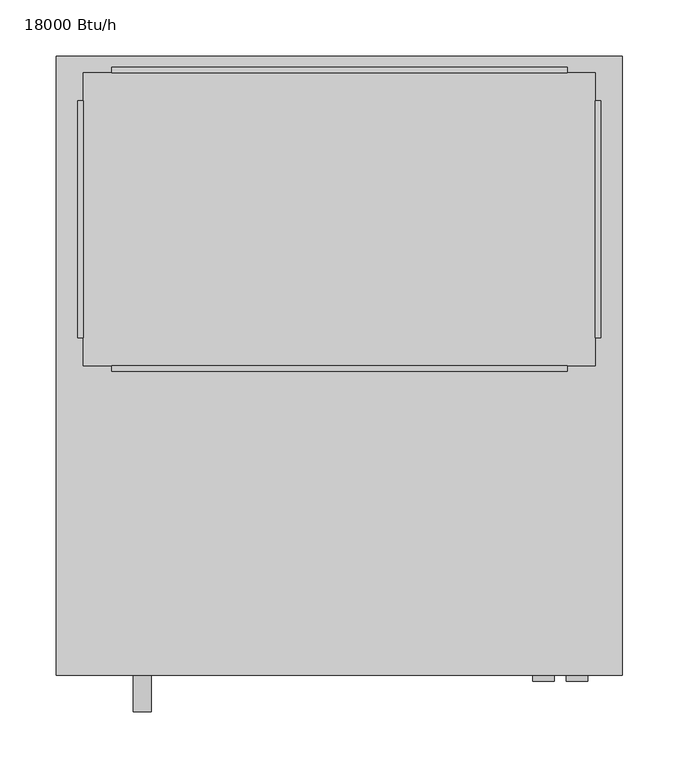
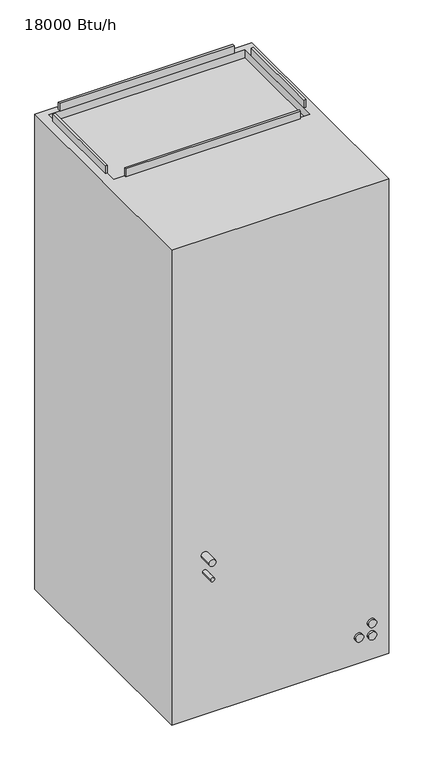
"""IFC4 building model written with IfcOpenShell, lengths in millimetres: proxy geometry, Lennox-VRF-Concealed_Vertical_Air_Handler-VVCA-2P_Series : 18000 Btu/h."""

from ifc_helpers import new_model, si_unit, point, frame, frame_2d, origin, place, context, project, spatial, polyline, circle_curve, trimmed, segment, composite_curve, outline, extrude, faceted_brep, source, transform, mapped, element, save


def proxy_18000_btu_h_9c45835d(model_context):
    return source(origin(), model_context, "Body", "SolidModel", [
        extrude(outline(composite_curve([segment(trimmed(circle_curve(frame_2d((60.0, 211.0)), 9.525), [point((60.0, 201.475))], [point((60.0, 220.525))], False, "CARTESIAN"), True, "CONTINUOUS"), segment(trimmed(circle_curve(frame_2d((60.0, 211.0)), 9.525), [point((60.0, 220.525))], [point((60.0, 201.475))], False, "CARTESIAN"), True, "CONTINUOUS")], self_intersect=False)), frame((0.0, -279.5, 0.0), z_axis=(0.0, 1.0, 0.0), x_axis=(0.0, 0.0, 1.0)), (0.0, 0.0, 1.0), 5.0),
        extrude(outline(composite_curve([segment(trimmed(circle_curve(frame_2d((65.0, 181.0)), 9.525), [point((65.0, 171.475))], [point((65.0, 190.525))], False, "CARTESIAN"), True, "CONTINUOUS"), segment(trimmed(circle_curve(frame_2d((65.0, 181.0)), 9.525), [point((65.0, 190.525))], [point((65.0, 171.475))], False, "CARTESIAN"), True, "CONTINUOUS")], self_intersect=False)), frame((0.0, -279.5, 0.0), z_axis=(0.0, 1.0, 0.0), x_axis=(0.0, 0.0, 1.0)), (0.0, 0.0, 1.0), 5.0),
        extrude(outline(composite_curve([segment(trimmed(circle_curve(frame_2d((90.0, 211.0)), 9.525), [point((90.0, 201.475))], [point((90.0, 220.525))], False, "CARTESIAN"), True, "CONTINUOUS"), segment(trimmed(circle_curve(frame_2d((90.0, 211.0)), 9.525), [point((90.0, 220.525))], [point((90.0, 201.475))], False, "CARTESIAN"), True, "CONTINUOUS")], self_intersect=False)), frame((0.0, -279.5, 0.0), z_axis=(0.0, 1.0, 0.0), x_axis=(0.0, 0.0, 1.0)), (0.0, 0.0, 1.0), 5.0),
        extrude(outline(composite_curve([segment(trimmed(circle_curve(frame_2d((349.0, -175.0)), 4.7625), [point((349.0, -179.7625))], [point((349.0, -170.2375))], False, "CARTESIAN"), True, "CONTINUOUS"), segment(trimmed(circle_curve(frame_2d((349.0, -175.0)), 4.7625), [point((349.0, -170.2375))], [point((349.0, -179.7625))], False, "CARTESIAN"), True, "CONTINUOUS")], self_intersect=False)), frame((0.0, -306.5, 0.0), z_axis=(0.0, 1.0, 0.0), x_axis=(0.0, 0.0, 1.0)), (0.0, 0.0, 1.0), 32.0),
        extrude(outline(composite_curve([segment(trimmed(circle_curve(frame_2d((390.0, -175.0)), 7.9375), [point((390.0, -182.9375))], [point((390.0, -167.0625))], False, "CARTESIAN"), True, "CONTINUOUS"), segment(trimmed(circle_curve(frame_2d((390.0, -175.0)), 7.9375), [point((390.0, -167.0625))], [point((390.0, -182.9375))], False, "CARTESIAN"), True, "CONTINUOUS")], self_intersect=False)), frame((0.0, -306.5, 0.0), z_axis=(0.0, 1.0, 0.0), x_axis=(0.0, 0.0, 1.0)), (0.0, 0.0, 1.0), 32.0),
        extrude(outline(polyline([(-232.0, 235.0), (-227.0, 235.0), (-227.0, 25.0), (-232.0, 25.0), (-232.0, 235.0)])), frame((0.0, 0.0, 1162.0), z_axis=(0.0, 0.0, 1.0), x_axis=(1.0, 0.0, 0.0)), (0.0, 0.0, 1.0), 19.0),
        extrude(outline(polyline([(227.0, 235.0), (232.0, 235.0), (232.0, 25.0), (227.0, 25.0), (227.0, 235.0)])), frame((0.0, 0.0, 1162.0), z_axis=(0.0, 0.0, 1.0), x_axis=(1.0, 0.0, 0.0)), (0.0, 0.0, 1.0), 19.0),
        extrude(outline(polyline([(202.0, 265.0), (202.0, 260.0), (-202.0, 260.0), (-202.0, 265.0), (202.0, 265.0)])), frame((0.0, 0.0, 1162.0), z_axis=(0.0, 0.0, 1.0), x_axis=(1.0, 0.0, 0.0)), (0.0, 0.0, 1.0), 19.0),
        extrude(outline(polyline([(202.0, 0.0), (202.0, -5.0), (-202.0, -5.0), (-202.0, 0.0), (202.0, 0.0)])), frame((0.0, 0.0, 1162.0), z_axis=(0.0, 0.0, 1.0), x_axis=(1.0, 0.0, 0.0)), (0.0, 0.0, 1.0), 19.0),
        faceted_brep([(251.0, 274.5, 1162.0), (-251.0, 274.5, 1162.0), (-251.0, -274.5, 1162.0), (251.0, -274.5, 1162.0), (-227.0, 260.0, 1162.0), (227.0, 260.0, 1162.0), (227.0, 0.0, 1162.0), (-227.0, 0.0, 1162.0), (251.0, 274.5, 0.0), (251.0, -274.5, 0.0), (-251.0, -274.5, 0.0), (-251.0, 274.5, 0.0), (227.0, 260.0, 1142.0), (-227.0, 260.0, 1142.0), (-227.0, 0.0, 1142.0), (227.0, 0.0, 1142.0)], [[[0, 1, 2, 3], [4, 5, 6, 7]], [[8, 9, 10, 11]], [[1, 0, 8, 11]], [[2, 1, 11, 10]], [[3, 2, 10, 9]], [[0, 3, 9, 8]], [[12, 13, 14, 15]], [[13, 12, 5, 4]], [[14, 13, 4, 7]], [[15, 14, 7, 6]], [[12, 15, 6, 5]]]),
    ])


if __name__ == "__main__":
    model = new_model("IFC4")
    model_context = context("Model", 3, world=origin())
    ifc_project = project(units=[si_unit("LENGTHUNIT", "METRE", prefix="MILLI")], contexts=[model_context])
    site = spatial("IfcSite", under=ifc_project)
    building = spatial("IfcBuilding", under=site)
    placement = place(None, origin())
    proxy_18000_btu_h_shape = proxy_18000_btu_h_9c45835d(model_context)
    element("IfcBuildingElementProxy", 1, Name="Lennox-VRF-Concealed_Vertical_Air_Handler-VVCA-2P_Series : 18000 Btu/h", ObjectType="Lennox-VRF-Concealed_Vertical_Air_Handler-VVCA-2P_Series : 18000 Btu/h", at=placement, inside=building, context=model_context, shape_type="MappedRepresentation", body=[
        mapped(proxy_18000_btu_h_shape, transform((0.0, 0.0, 0.0), x_axis=(1.0, 0.0, 0.0), y_axis=(0.0, 1.0, 0.0), z_axis=(0.0, 0.0, 1.0))),
    ])
    save(model, "model.ifc")
